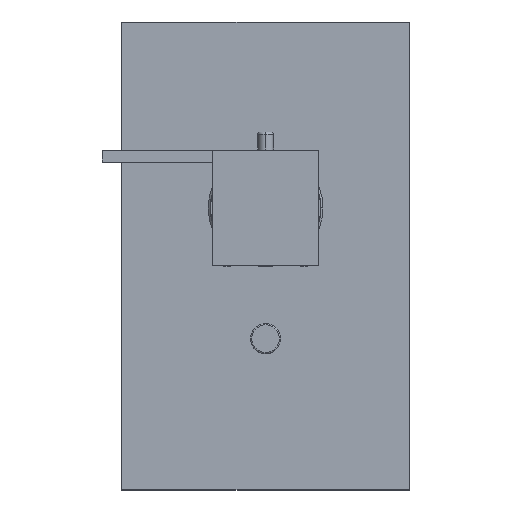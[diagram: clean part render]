
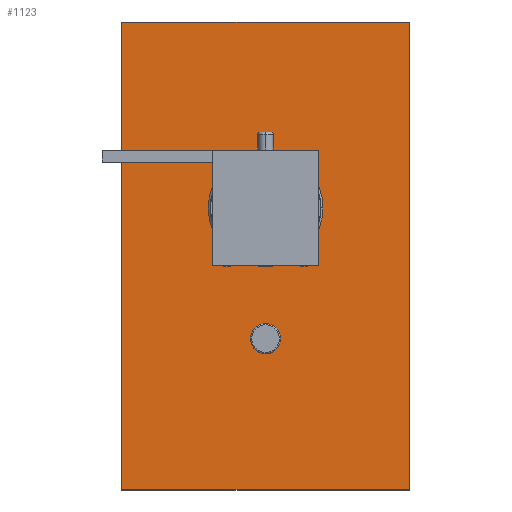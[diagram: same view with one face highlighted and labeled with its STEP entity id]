
A CAD part, top view. The second image highlights one B-rep face of the part: STEP entity #1123.
In plain terms, the highlighted planar face has unit normal (0, 0, 1).
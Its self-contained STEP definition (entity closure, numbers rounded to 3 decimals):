
#1=CARTESIAN_POINT('',(0.,0.,27.));
#2=DIRECTION('',(0.,0.,1.));
#3=DIRECTION('',(-1.,0.,0.));
#4=AXIS2_PLACEMENT_3D('',#1,#2,#3);
#11=DIRECTION('',(-1.,0.,0.));
#12=VECTOR('',#11,120.);
#13=CARTESIAN_POINT('',(60.,77.5,27.));
#14=LINE('',#13,#12);
#15=DIRECTION('',(0.,1.,0.));
#16=VECTOR('',#15,195.);
#17=CARTESIAN_POINT('',(60.,-117.5,27.));
#18=LINE('',#17,#16);
#19=DIRECTION('',(1.,0.,0.));
#20=VECTOR('',#19,120.);
#21=CARTESIAN_POINT('',(-60.,-117.5,27.));
#22=LINE('',#21,#20);
#23=DIRECTION('',(0.,-1.,0.));
#24=VECTOR('',#23,195.);
#25=CARTESIAN_POINT('',(-60.,77.5,27.));
#26=LINE('',#25,#24);
#59=CARTESIAN_POINT('',(0.,0.,27.));
#60=DIRECTION('',(0.,0.,1.));
#61=DIRECTION('',(1.,0.,0.));
#62=AXIS2_PLACEMENT_3D('',#59,#60,#61);
#281=CARTESIAN_POINT('',(0.,-54.5,27.));
#282=DIRECTION('',(0.,0.,1.));
#283=DIRECTION('',(0.999,-0.034,0.));
#284=AXIS2_PLACEMENT_3D('',#281,#282,#283);
#363=CARTESIAN_POINT('',(0.,-54.5,27.));
#364=DIRECTION('',(0.,0.,1.));
#365=DIRECTION('',(-0.999,0.034,0.));
#366=AXIS2_PLACEMENT_3D('',#363,#364,#365);
#990=CARTESIAN_POINT('',(60.,77.5,27.));
#992=VERTEX_POINT('',#990);
#994=CARTESIAN_POINT('',(-60.,77.5,27.));
#996=VERTEX_POINT('',#994);
#998=CARTESIAN_POINT('',(-60.,-117.5,27.));
#1000=VERTEX_POINT('',#998);
#1002=CARTESIAN_POINT('',(60.,-117.5,27.));
#1004=VERTEX_POINT('',#1002);
#1073=CARTESIAN_POINT('',(-23.9,0.,27.));
#1074=CARTESIAN_POINT('',(23.9,0.,27.));
#1075=VERTEX_POINT('',#1073);
#1076=VERTEX_POINT('',#1074);
#1077=CARTESIAN_POINT('',(6.246,-54.711,27.));
#1078=CARTESIAN_POINT('',(-6.246,-54.289,27.));
#1079=VERTEX_POINT('',#1077);
#1080=VERTEX_POINT('',#1078);
#1097=CARTESIAN_POINT('',(0.,-20.,27.));
#1098=DIRECTION('',(0.,0.,1.));
#1099=DIRECTION('',(0.,-1.,0.));
#1100=AXIS2_PLACEMENT_3D('',#1097,#1098,#1099);
#1101=PLANE('',#1100);
#1103=ORIENTED_EDGE('',*,*,#1102,.F.);
#1105=ORIENTED_EDGE('',*,*,#1104,.F.);
#1107=ORIENTED_EDGE('',*,*,#1106,.F.);
#1109=ORIENTED_EDGE('',*,*,#1108,.F.);
#1110=EDGE_LOOP('',(#1103,#1105,#1107,#1109));
#1111=FACE_OUTER_BOUND('',#1110,.F.);
#1112=ORIENTED_EDGE('',*,*,#1086,.T.);
#1114=ORIENTED_EDGE('',*,*,#1113,.T.);
#1115=EDGE_LOOP('',(#1112,#1114));
#1116=FACE_BOUND('',#1115,.F.);
#1118=ORIENTED_EDGE('',*,*,#1117,.T.);
#1120=ORIENTED_EDGE('',*,*,#1119,.T.);
#1121=EDGE_LOOP('',(#1118,#1120));
#1122=FACE_BOUND('',#1121,.F.);
#1123=ADVANCED_FACE('',(#1111,#1116,#1122),#1101,.T.);
#5=CIRCLE('',#4,23.9);
#63=CIRCLE('',#62,23.9);
#285=CIRCLE('',#284,6.25);
#367=CIRCLE('',#366,6.25);
#1086=EDGE_CURVE('',#1075,#1076,#5,.T.);
#1102=EDGE_CURVE('',#992,#996,#14,.T.);
#1104=EDGE_CURVE('',#1004,#992,#18,.T.);
#1106=EDGE_CURVE('',#1000,#1004,#22,.T.);
#1108=EDGE_CURVE('',#996,#1000,#26,.T.);
#1113=EDGE_CURVE('',#1076,#1075,#63,.T.);
#1117=EDGE_CURVE('',#1079,#1080,#285,.T.);
#1119=EDGE_CURVE('',#1080,#1079,#367,.T.);
